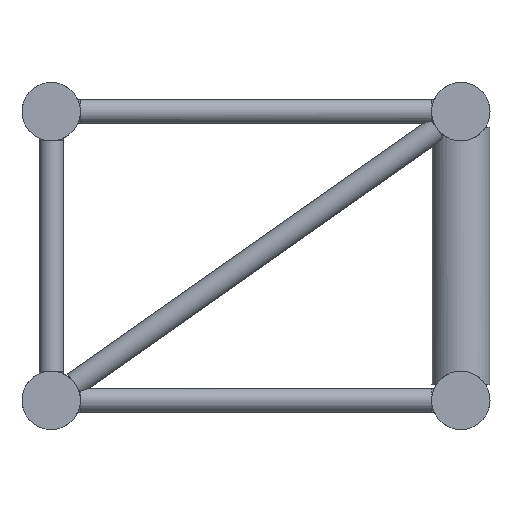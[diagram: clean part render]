
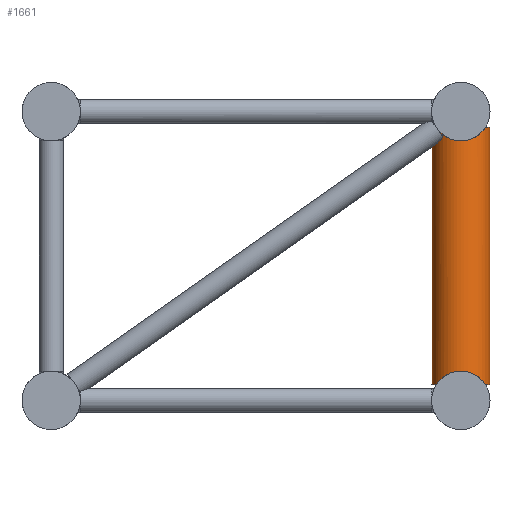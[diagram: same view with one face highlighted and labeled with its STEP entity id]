
A CAD part, left-side view. The second image highlights one B-rep face of the part: STEP entity #1661.
In plain terms, the highlighted cylindrical face has radius 24.15 mm (diameter 48.3 mm), a full revolution.
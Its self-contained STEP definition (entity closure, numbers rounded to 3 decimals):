
#57=CIRCLE('',#1821,24.15);
#58=CIRCLE('',#1823,24.15);
#59=CIRCLE('',#1824,24.15);
#60=CIRCLE('',#1826,24.15);
#61=CIRCLE('',#1828,24.15);
#241=FACE_BOUND('',#470,.T.);
#357=FACE_OUTER_BOUND('',#469,.T.);
#469=EDGE_LOOP('',(#1183,#1184,#1185,#1186));
#470=EDGE_LOOP('',(#1187,#1188,#1189,#1190,#1191,#1192,#1193));
#650=ELLIPSE('',#1802,41.912,24.15);
#658=ELLIPSE('',#1820,34.153,24.15);
#659=ELLIPSE('',#1822,34.153,24.15);
#660=ELLIPSE('',#1825,34.153,24.15);
#661=ELLIPSE('',#1827,34.153,24.15);
#679=B_SPLINE_CURVE_WITH_KNOTS('',3,(#2816,#2817,#2818,#2819,#2820,#2821,
#2822,#2823,#2824,#2825,#2826,#2827,#2828,#2829,#2830,#2831,#2832,#2833,
#2834,#2835,#2836,#2837,#2838,#2839),.UNSPECIFIED.,.F.,.F.,(4,2,2,2,2,2,
2,2,2,2,2,4),(1.638,2.082,2.429,2.776,
2.941,3.106,3.271,3.435,3.842,
4.249,4.608,4.608),.UNSPECIFIED.);
#766=VERTEX_POINT('',#2775);
#767=VERTEX_POINT('',#2776);
#775=VERTEX_POINT('',#2815);
#780=VERTEX_POINT('',#2853);
#781=VERTEX_POINT('',#2854);
#782=VERTEX_POINT('',#2856);
#783=VERTEX_POINT('',#2858);
#784=VERTEX_POINT('',#2861);
#785=VERTEX_POINT('',#2863);
#786=VERTEX_POINT('',#2865);
#787=VERTEX_POINT('',#2867);
#936=EDGE_CURVE('',#766,#767,#650,.T.);
#948=EDGE_CURVE('',#767,#775,#679,.T.);
#956=EDGE_CURVE('',#780,#781,#658,.T.);
#957=EDGE_CURVE('',#782,#780,#57,.T.);
#958=EDGE_CURVE('',#783,#782,#659,.T.);
#959=EDGE_CURVE('',#781,#783,#58,.T.);
#960=EDGE_CURVE('',#784,#775,#59,.T.);
#961=EDGE_CURVE('',#785,#784,#660,.T.);
#962=EDGE_CURVE('',#786,#785,#60,.T.);
#963=EDGE_CURVE('',#787,#786,#661,.T.);
#964=EDGE_CURVE('',#766,#787,#61,.T.);
#1183=ORIENTED_EDGE('',*,*,#956,.F.);
#1184=ORIENTED_EDGE('',*,*,#957,.F.);
#1185=ORIENTED_EDGE('',*,*,#958,.F.);
#1186=ORIENTED_EDGE('',*,*,#959,.F.);
#1187=ORIENTED_EDGE('',*,*,#936,.T.);
#1188=ORIENTED_EDGE('',*,*,#948,.T.);
#1189=ORIENTED_EDGE('',*,*,#960,.F.);
#1190=ORIENTED_EDGE('',*,*,#961,.F.);
#1191=ORIENTED_EDGE('',*,*,#962,.F.);
#1192=ORIENTED_EDGE('',*,*,#963,.F.);
#1193=ORIENTED_EDGE('',*,*,#964,.F.);
#1505=CYLINDRICAL_SURFACE('',#1819,24.15);
#1661=ADVANCED_FACE('',(#357,#241),#1505,.T.);
#1802=AXIS2_PLACEMENT_3D('',#2777,#2094,#2095);
#1819=AXIS2_PLACEMENT_3D('',#2852,#2130,#2131);
#1820=AXIS2_PLACEMENT_3D('',#2855,#2132,#2133);
#1821=AXIS2_PLACEMENT_3D('',#2857,#2134,#2135);
#1822=AXIS2_PLACEMENT_3D('',#2859,#2136,#2137);
#1823=AXIS2_PLACEMENT_3D('',#2860,#2138,#2139);
#1824=AXIS2_PLACEMENT_3D('',#2862,#2140,#2141);
#1825=AXIS2_PLACEMENT_3D('',#2864,#2142,#2143);
#1826=AXIS2_PLACEMENT_3D('',#2866,#2144,#2145);
#1827=AXIS2_PLACEMENT_3D('',#2868,#2146,#2147);
#1828=AXIS2_PLACEMENT_3D('',#2869,#2148,#2149);
#2094=DIRECTION('center_axis',(0.,-0.817,
0.576));
#2095=DIRECTION('ref_axis',(0.,-0.576,-0.817));
#2130=DIRECTION('center_axis',(0.,0.,1.));
#2131=DIRECTION('ref_axis',(-1.,0.,0.));
#2132=DIRECTION('center_axis',(0.707,0.,-0.707));
#2133=DIRECTION('ref_axis',(-0.707,0.,-0.707));
#2134=DIRECTION('center_axis',(0.,0.,-1.));
#2135=DIRECTION('ref_axis',(-1.,0.,0.));
#2136=DIRECTION('center_axis',(-0.707,0.,-0.707));
#2137=DIRECTION('ref_axis',(-0.707,0.,0.707));
#2138=DIRECTION('center_axis',(0.,0.,-1.));
#2139=DIRECTION('ref_axis',(-1.,0.,0.));
#2140=DIRECTION('center_axis',(0.,0.,1.));
#2141=DIRECTION('ref_axis',(-1.,0.,0.));
#2142=DIRECTION('center_axis',(0.707,0.,0.707));
#2143=DIRECTION('ref_axis',(-0.707,0.,0.707));
#2144=DIRECTION('center_axis',(0.,0.,1.));
#2145=DIRECTION('ref_axis',(-1.,0.,0.));
#2146=DIRECTION('center_axis',(-0.707,0.,0.707));
#2147=DIRECTION('ref_axis',(-0.707,0.,-0.707));
#2148=DIRECTION('center_axis',(0.,0.,1.));
#2149=DIRECTION('ref_axis',(-1.,0.,0.));
#2775=CARTESIAN_POINT('',(61.215,20.394,-13.15));
#2776=CARTESIAN_POINT('',(55.068,14.803,-21.08));
#2777=CARTESIAN_POINT('Origin',(74.15,0.,-42.076));
#2815=CARTESIAN_POINT('',(69.566,23.711,-13.15));
#2816=CARTESIAN_POINT('Ctrl Pts',(55.068,14.803,-21.08));
#2817=CARTESIAN_POINT('Ctrl Pts',(55.703,15.621,-22.097));
#2818=CARTESIAN_POINT('Ctrl Pts',(56.403,16.417,-23.035));
#2819=CARTESIAN_POINT('Ctrl Pts',(57.805,17.799,-24.511));
#2820=CARTESIAN_POINT('Ctrl Pts',(58.469,18.391,-25.091));
#2821=CARTESIAN_POINT('Ctrl Pts',(59.957,19.562,-26.061));
#2822=CARTESIAN_POINT('Ctrl Pts',(60.776,20.141,-26.459));
#2823=CARTESIAN_POINT('Ctrl Pts',(62.218,21.003,-26.752));
#2824=CARTESIAN_POINT('Ctrl Pts',(62.715,21.279,-26.796));
#2825=CARTESIAN_POINT('Ctrl Pts',(63.726,21.792,-26.737));
#2826=CARTESIAN_POINT('Ctrl Pts',(64.24,22.03,-26.634));
#2827=CARTESIAN_POINT('Ctrl Pts',(65.234,22.45,-26.276));
#2828=CARTESIAN_POINT('Ctrl Pts',(65.716,22.634,-26.021));
#2829=CARTESIAN_POINT('Ctrl Pts',(66.605,22.946,-25.39));
#2830=CARTESIAN_POINT('Ctrl Pts',(67.013,23.074,-25.014));
#2831=CARTESIAN_POINT('Ctrl Pts',(68.253,23.437,-23.615));
#2832=CARTESIAN_POINT('Ctrl Pts',(68.931,23.584,-22.34));
#2833=CARTESIAN_POINT('Ctrl Pts',(69.806,23.76,-19.597));
#2834=CARTESIAN_POINT('Ctrl Pts',(70.,23.791,-18.128));
#2835=CARTESIAN_POINT('Ctrl Pts',(70.,23.791,-15.576));
#2836=CARTESIAN_POINT('Ctrl Pts',(69.855,23.767,-14.352));
#2837=CARTESIAN_POINT('Ctrl Pts',(69.566,23.711,-13.151));
#2838=CARTESIAN_POINT('Ctrl Pts',(69.566,23.711,-13.15));
#2839=CARTESIAN_POINT('Ctrl Pts',(69.566,23.711,-13.15));
#2852=CARTESIAN_POINT('Origin',(74.15,0.,-225.85));
#2853=CARTESIAN_POINT('',(87.3,20.256,-225.85));
#2854=CARTESIAN_POINT('',(87.3,-20.256,-225.85));
#2855=CARTESIAN_POINT('Origin',(74.15,0.,-239.));
#2856=CARTESIAN_POINT('',(61.,20.256,-225.85));
#2857=CARTESIAN_POINT('Origin',(74.15,0.,-225.85));
#2858=CARTESIAN_POINT('',(61.,-20.256,-225.85));
#2859=CARTESIAN_POINT('Origin',(74.15,0.,-239.));
#2860=CARTESIAN_POINT('Origin',(74.15,0.,-225.85));
#2861=CARTESIAN_POINT('',(87.3,20.256,-13.15));
#2862=CARTESIAN_POINT('Origin',(74.15,0.,-13.15));
#2863=CARTESIAN_POINT('',(87.3,-20.256,-13.15));
#2864=CARTESIAN_POINT('Origin',(74.15,0.,0.));
#2865=CARTESIAN_POINT('',(61.,-20.256,-13.15));
#2866=CARTESIAN_POINT('Origin',(74.15,0.,-13.15));
#2867=CARTESIAN_POINT('',(61.,20.256,-13.15));
#2868=CARTESIAN_POINT('Origin',(74.15,0.,0.));
#2869=CARTESIAN_POINT('Origin',(74.15,0.,-13.15));
